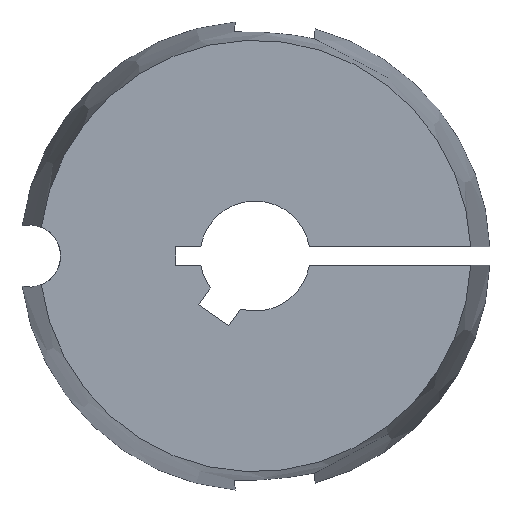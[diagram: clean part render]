
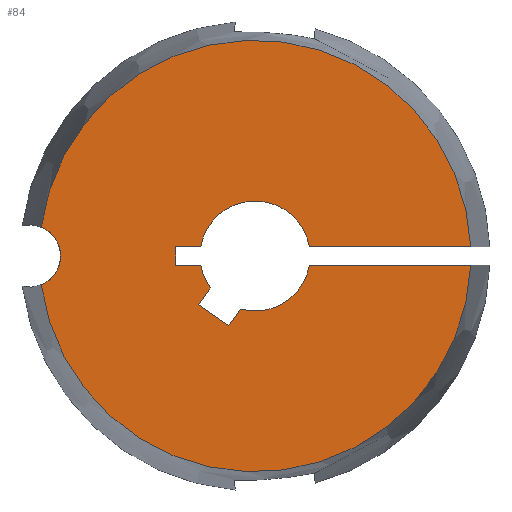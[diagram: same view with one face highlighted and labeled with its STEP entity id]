
A CAD part, left-side view. The second image highlights one B-rep face of the part: STEP entity #84.
In plain terms, the highlighted planar face has unit normal (-1, 0, 0).
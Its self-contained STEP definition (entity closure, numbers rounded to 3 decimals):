
#84 = ADVANCED_FACE( '', ( #114 ), #115, .F. );
#114 = FACE_OUTER_BOUND( '', #154, .T. );
#115 = PLANE( '', #155 );
#154 = EDGE_LOOP( '', ( #251, #252, #253, #254, #255, #256, #257, #258, #259, #260, #261, #262, #263, #264 ) );
#155 = AXIS2_PLACEMENT_3D( '', #265, #266, #267 );
#251 = ORIENTED_EDGE( '', *, *, #349, .T. );
#252 = ORIENTED_EDGE( '', *, *, #381, .F. );
#253 = ORIENTED_EDGE( '', *, *, #352, .T. );
#254 = ORIENTED_EDGE( '', *, *, #365, .T. );
#255 = ORIENTED_EDGE( '', *, *, #363, .T. );
#256 = ORIENTED_EDGE( '', *, *, #360, .T. );
#257 = ORIENTED_EDGE( '', *, *, #369, .T. );
#258 = ORIENTED_EDGE( '', *, *, #382, .T. );
#259 = ORIENTED_EDGE( '', *, *, #383, .T. );
#260 = ORIENTED_EDGE( '', *, *, #384, .T. );
#261 = ORIENTED_EDGE( '', *, *, #385, .T. );
#262 = ORIENTED_EDGE( '', *, *, #386, .T. );
#263 = ORIENTED_EDGE( '', *, *, #354, .T. );
#264 = ORIENTED_EDGE( '', *, *, #387, .F. );
#265 = CARTESIAN_POINT( '', ( -22.3, 0., 0. ) );
#266 = DIRECTION( '', ( 1., 0., 0. ) );
#267 = DIRECTION( '', ( 0., 0., -1. ) );
#349 = EDGE_CURVE( '', #402, #407, #409, .T. );
#352 = EDGE_CURVE( '', #415, #413, #416, .T. );
#354 = EDGE_CURVE( '', #418, #419, #420, .T. );
#360 = EDGE_CURVE( '', #431, #429, #432, .T. );
#363 = EDGE_CURVE( '', #436, #431, #437, .T. );
#365 = EDGE_CURVE( '', #413, #436, #439, .T. );
#369 = EDGE_CURVE( '', #429, #443, #445, .T. );
#381 = EDGE_CURVE( '', #415, #407, #465, .T. );
#382 = EDGE_CURVE( '', #443, #466, #467, .T. );
#383 = EDGE_CURVE( '', #466, #468, #469, .T. );
#384 = EDGE_CURVE( '', #468, #470, #471, .T. );
#385 = EDGE_CURVE( '', #470, #472, #473, .T. );
#386 = EDGE_CURVE( '', #472, #418, #474, .T. );
#387 = EDGE_CURVE( '', #402, #419, #475, .T. );
#402 = VERTEX_POINT( '', #513 );
#407 = VERTEX_POINT( '', #523 );
#409 = CIRCLE( '', #530, 2.55 );
#413 = VERTEX_POINT( '', #535 );
#415 = VERTEX_POINT( '', #538 );
#416 = LINE( '', #539, #540 );
#418 = VERTEX_POINT( '', #548 );
#419 = VERTEX_POINT( '', #549 );
#420 = LINE( '', #550, #551 );
#429 = VERTEX_POINT( '', #569 );
#431 = VERTEX_POINT( '', #572 );
#432 = LINE( '', #573, #574 );
#436 = VERTEX_POINT( '', #580 );
#437 = LINE( '', #581, #582 );
#439 = CIRCLE( '', #585, 4.5 );
#443 = VERTEX_POINT( '', #590 );
#445 = LINE( '', #593, #594 );
#465 = CIRCLE( '', #617, 17.641 );
#466 = VERTEX_POINT( '', #618 );
#467 = CIRCLE( '', #619, 4.5 );
#468 = VERTEX_POINT( '', #620 );
#469 = LINE( '', #621, #622 );
#470 = VERTEX_POINT( '', #623 );
#471 = LINE( '', #624, #625 );
#472 = VERTEX_POINT( '', #626 );
#473 = LINE( '', #627, #628 );
#474 = CIRCLE( '', #629, 4.5 );
#475 = CIRCLE( '', #630, 17.641 );
#513 = CARTESIAN_POINT( '', ( -22.3, 17.483, 2.355 ) );
#523 = CARTESIAN_POINT( '', ( -22.3, 17.483, -2.355 ) );
#530 = AXIS2_PLACEMENT_3D( '', #686, #687, #688 );
#535 = CARTESIAN_POINT( '', ( -22.3, -4.437, -0.75 ) );
#538 = CARTESIAN_POINT( '', ( -22.3, -17.625, -0.75 ) );
#539 = CARTESIAN_POINT( '', ( -22.3, -19.2, -0.75 ) );
#540 = VECTOR( '', #691, 1000. );
#548 = CARTESIAN_POINT( '', ( -22.3, -4.437, 0.75 ) );
#549 = CARTESIAN_POINT( '', ( -22.3, -17.625, 0.75 ) );
#550 = CARTESIAN_POINT( '', ( -22.3, 0., 0.75 ) );
#551 = VECTOR( '', #692, 1000. );
#569 = CARTESIAN_POINT( '', ( -22.3, 4.613, -3.973 ) );
#572 = CARTESIAN_POINT( '', ( -22.3, 2.155, -5.693 ) );
#573 = CARTESIAN_POINT( '', ( -22.3, 2.155, -5.693 ) );
#574 = VECTOR( '', #697, 1000. );
#580 = CARTESIAN_POINT( '', ( -22.3, 1.205, -4.336 ) );
#581 = CARTESIAN_POINT( '', ( -22.3, 1.205, -4.336 ) );
#582 = VECTOR( '', #700, 1000. );
#585 = AXIS2_PLACEMENT_3D( '', #702, #703, #704 );
#590 = CARTESIAN_POINT( '', ( -22.3, 3.662, -2.615 ) );
#593 = CARTESIAN_POINT( '', ( -22.3, 4.613, -3.973 ) );
#594 = VECTOR( '', #710, 1000. );
#617 = AXIS2_PLACEMENT_3D( '', #738, #739, #740 );
#618 = CARTESIAN_POINT( '', ( -22.3, 4.437, -0.75 ) );
#619 = AXIS2_PLACEMENT_3D( '', #741, #742, #743 );
#620 = CARTESIAN_POINT( '', ( -22.3, 6.5, -0.75 ) );
#621 = CARTESIAN_POINT( '', ( -22.3, 0., -0.75 ) );
#622 = VECTOR( '', #744, 1000. );
#623 = CARTESIAN_POINT( '', ( -22.3, 6.5, 0.75 ) );
#624 = CARTESIAN_POINT( '', ( -22.3, 6.5, -0.75 ) );
#625 = VECTOR( '', #745, 1000. );
#626 = CARTESIAN_POINT( '', ( -22.3, 4.437, 0.75 ) );
#627 = CARTESIAN_POINT( '', ( -22.3, 6.5, 0.75 ) );
#628 = VECTOR( '', #746, 1000. );
#629 = AXIS2_PLACEMENT_3D( '', #747, #748, #749 );
#630 = AXIS2_PLACEMENT_3D( '', #750, #751, #752 );
#686 = CARTESIAN_POINT( '', ( -22.3, 18.46, 0. ) );
#687 = DIRECTION( '', ( 1., 0., 0. ) );
#688 = DIRECTION( '', ( 0., 1., 0. ) );
#691 = DIRECTION( '', ( 0., 1., 0. ) );
#692 = DIRECTION( '', ( 0., -1., 0. ) );
#697 = DIRECTION( '', ( 0., 0.819, 0.574 ) );
#700 = DIRECTION( '', ( 0., 0.574, -0.819 ) );
#702 = CARTESIAN_POINT( '', ( -22.3, 0., 0. ) );
#703 = DIRECTION( '', ( 1., 0., 0. ) );
#704 = DIRECTION( '', ( 0., 0., -1. ) );
#710 = DIRECTION( '', ( 0., -0.574, 0.819 ) );
#738 = CARTESIAN_POINT( '', ( -22.3, 0., 0. ) );
#739 = DIRECTION( '', ( 1., 0., 0. ) );
#740 = DIRECTION( '', ( 0., 0., -1. ) );
#741 = CARTESIAN_POINT( '', ( -22.3, 0., 0. ) );
#742 = DIRECTION( '', ( 1., 0., 0. ) );
#743 = DIRECTION( '', ( 0., 0., -1. ) );
#744 = DIRECTION( '', ( 0., 1., 0. ) );
#745 = DIRECTION( '', ( 0., 0., 1. ) );
#746 = DIRECTION( '', ( 0., -1., 0. ) );
#747 = CARTESIAN_POINT( '', ( -22.3, 0., 0. ) );
#748 = DIRECTION( '', ( 1., 0., 0. ) );
#749 = DIRECTION( '', ( 0., 0., -1. ) );
#750 = CARTESIAN_POINT( '', ( -22.3, 0., 0. ) );
#751 = DIRECTION( '', ( 1., 0., 0. ) );
#752 = DIRECTION( '', ( 0., 0., -1. ) );
